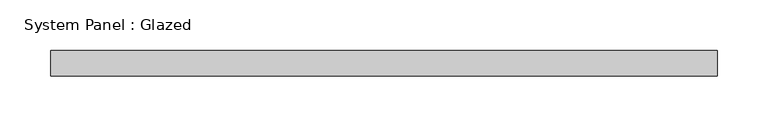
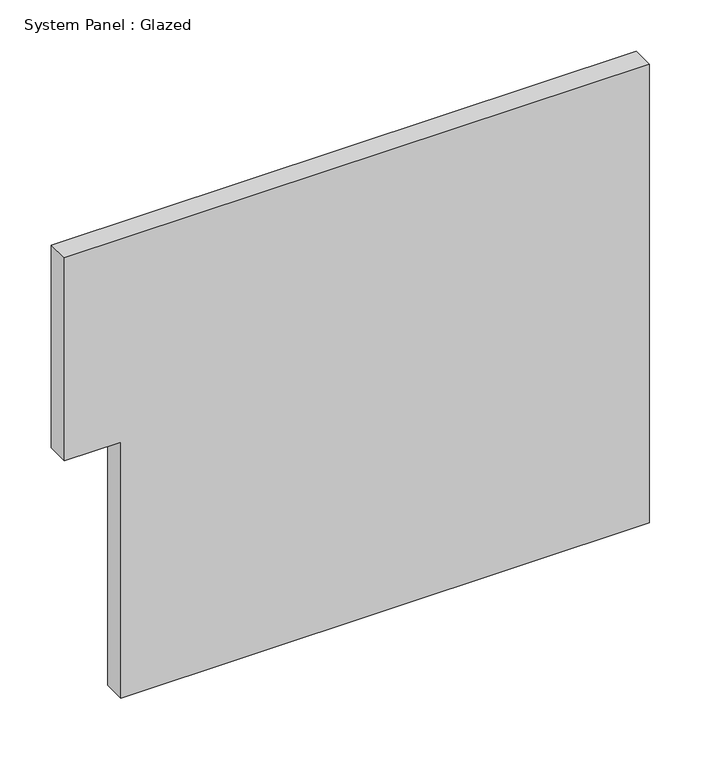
"""IFC4 building model written with IfcOpenShell, lengths in millimetres: plate geometry, System Panel : Glazed."""

from ifc_helpers import new_model, si_unit, frame, origin, place, context, project, spatial, polyline, outline, extrude, source, transform, mapped, element, save


def system_panel_glazed_78103c7b(model_context):
    return source(origin(), model_context, "Body", "SweptSolid", [
        extrude(outline(polyline([(0.0, -265.95), (0.0, 329.45), (304.8, 329.45), (546.1, 329.45), (546.1, -329.45), (304.8, -329.45), (304.8, -265.95), (0.0, -265.95)])), frame((0.0, -44.45, 0.0), z_axis=(0.0, 1.0, 0.0), x_axis=(0.0, 0.0, 1.0)), (0.0, 0.0, 1.0), 25.4),
    ])


if __name__ == "__main__":
    model = new_model("IFC4")
    model_context = context("Model", 3, world=origin())
    ifc_project = project(units=[si_unit("LENGTHUNIT", "METRE", prefix="MILLI")], contexts=[model_context])
    site = spatial("IfcSite", under=ifc_project)
    building = spatial("IfcBuilding", under=site)
    placement = place(None, origin())
    system_panel_glazed_shape = system_panel_glazed_78103c7b(model_context)
    element("IfcPlate", 1, ObjectType="System Panel : Glazed", at=placement, inside=building, context=model_context, shape_type="MappedRepresentation", body=[
        mapped(system_panel_glazed_shape, transform((0.0, 0.0, 0.0), x_axis=(1.0, 0.0, 0.0), y_axis=(0.0, 1.0, 0.0), z_axis=(0.0, 0.0, 1.0))),
    ])
    save(model, "model.ifc")
